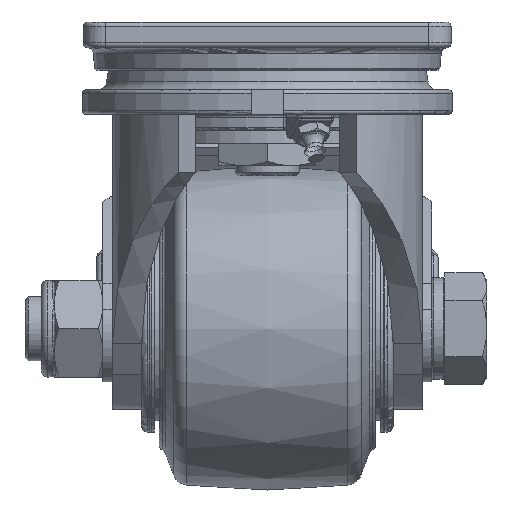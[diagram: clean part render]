
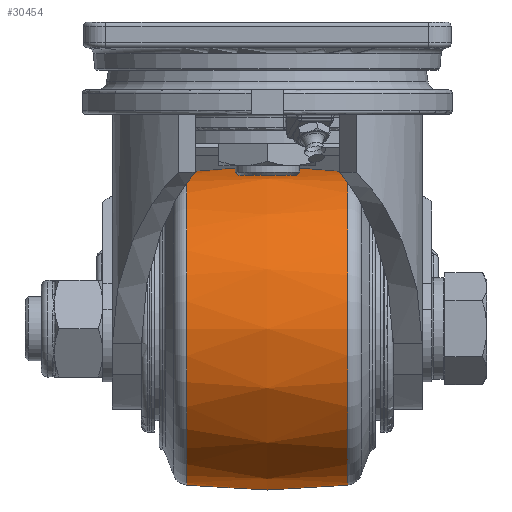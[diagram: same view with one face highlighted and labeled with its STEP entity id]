
A CAD part, left-side view. The second image highlights one B-rep face of the part: STEP entity #30454.
In plain terms, the highlighted free-form (B-spline) face has degree [2, 2] with [3, 9] control points.
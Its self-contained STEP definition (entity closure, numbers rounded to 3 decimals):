
#263=(
BOUNDED_SURFACE()
B_SPLINE_SURFACE(2,2,((#43612,#43613,#43614,#43615,#43616,#43617,#43618,
#43619,#43620),(#43621,#43622,#43623,#43624,#43625,#43626,#43627,#43628,
#43629),(#43630,#43631,#43632,#43633,#43634,#43635,#43636,#43637,#43638)),
 .UNSPECIFIED.,.F.,.T.,.F.)
B_SPLINE_SURFACE_WITH_KNOTS((3,3),(3,2,2,2,3),(-0.119,0.119),
(-3.142,-1.571,0.,1.571,3.142),
 .UNSPECIFIED.)
GEOMETRIC_REPRESENTATION_ITEM()
RATIONAL_B_SPLINE_SURFACE(((1.,0.707,1.,0.707,1.,
0.707,1.,0.707,1.),(0.993,0.702,
0.993,0.702,0.993,0.702,
0.993,0.702,0.993),(1.,0.707,
1.,0.707,1.,0.707,1.,0.707,1.)))
REPRESENTATION_ITEM('')
SURFACE()
);
#7718=FACE_OUTER_BOUND('',#9578,.T.);
#9578=EDGE_LOOP('',(#21044,#21045,#21046,#21047,#21048,#21049));
#11614=CIRCLE('',#32433,48.509);
#11615=CIRCLE('',#32434,48.509);
#11616=CIRCLE('',#32435,210.);
#11617=CIRCLE('',#32436,48.509);
#11618=CIRCLE('',#32437,48.509);
#13003=VERTEX_POINT('',#43607);
#13004=VERTEX_POINT('',#43609);
#13005=VERTEX_POINT('',#43639);
#13006=VERTEX_POINT('',#43641);
#16111=EDGE_CURVE('',#13003,#13004,#11614,.T.);
#16112=EDGE_CURVE('',#13004,#13003,#11615,.T.);
#16113=EDGE_CURVE('',#13003,#13005,#11616,.T.);
#16114=EDGE_CURVE('',#13005,#13006,#11617,.T.);
#16115=EDGE_CURVE('',#13006,#13005,#11618,.T.);
#21044=ORIENTED_EDGE('',*,*,#16112,.F.);
#21045=ORIENTED_EDGE('',*,*,#16111,.F.);
#21046=ORIENTED_EDGE('',*,*,#16113,.T.);
#21047=ORIENTED_EDGE('',*,*,#16114,.T.);
#21048=ORIENTED_EDGE('',*,*,#16115,.T.);
#21049=ORIENTED_EDGE('',*,*,#16113,.F.);
#30454=ADVANCED_FACE('',(#7718),#263,.F.);
#32433=AXIS2_PLACEMENT_3D('',#43610,#35482,#35483);
#32434=AXIS2_PLACEMENT_3D('',#43611,#35484,#35485);
#32435=AXIS2_PLACEMENT_3D('',#43640,#35486,#35487);
#32436=AXIS2_PLACEMENT_3D('',#43642,#35488,#35489);
#32437=AXIS2_PLACEMENT_3D('',#43643,#35490,#35491);
#35482=DIRECTION('center_axis',(0.,1.,0.));
#35483=DIRECTION('ref_axis',(-1.,0.,0.));
#35484=DIRECTION('center_axis',(0.,1.,0.));
#35485=DIRECTION('ref_axis',(-1.,0.,0.));
#35486=DIRECTION('center_axis',(1.,0.,0.));
#35487=DIRECTION('ref_axis',(0.,0.,
1.));
#35488=DIRECTION('center_axis',(0.,1.,0.));
#35489=DIRECTION('ref_axis',(-1.,0.,0.));
#35490=DIRECTION('center_axis',(0.,1.,0.));
#35491=DIRECTION('ref_axis',(-1.,0.,0.));
#43607=CARTESIAN_POINT('',(37.134,24.976,-16.491));
#43609=CARTESIAN_POINT('',(-11.375,24.976,-65.));
#43610=CARTESIAN_POINT('Origin',(37.134,24.976,-65.));
#43611=CARTESIAN_POINT('Origin',(37.134,24.976,-65.));
#43612=CARTESIAN_POINT('Ctrl Pts',(37.134,24.976,-16.491));
#43613=CARTESIAN_POINT('Ctrl Pts',(-11.375,24.976,-16.491));
#43614=CARTESIAN_POINT('Ctrl Pts',(-11.375,24.976,-65.));
#43615=CARTESIAN_POINT('Ctrl Pts',(-11.375,24.976,-113.509));
#43616=CARTESIAN_POINT('Ctrl Pts',(37.134,24.976,-113.509));
#43617=CARTESIAN_POINT('Ctrl Pts',(85.644,24.976,-113.509));
#43618=CARTESIAN_POINT('Ctrl Pts',(85.644,24.976,-65.));
#43619=CARTESIAN_POINT('Ctrl Pts',(85.644,24.976,-16.491));
#43620=CARTESIAN_POINT('Ctrl Pts',(37.134,24.976,-16.491));
#43621=CARTESIAN_POINT('Ctrl Pts',(37.134,0.,
-13.499));
#43622=CARTESIAN_POINT('Ctrl Pts',(-14.367,0.,
-13.499));
#43623=CARTESIAN_POINT('Ctrl Pts',(-14.367,0.,
-65.));
#43624=CARTESIAN_POINT('Ctrl Pts',(-14.367,0.,
-116.501));
#43625=CARTESIAN_POINT('Ctrl Pts',(37.134,0.,
-116.501));
#43626=CARTESIAN_POINT('Ctrl Pts',(88.635,0.,
-116.501));
#43627=CARTESIAN_POINT('Ctrl Pts',(88.635,0.,
-65.));
#43628=CARTESIAN_POINT('Ctrl Pts',(88.635,0.,
-13.499));
#43629=CARTESIAN_POINT('Ctrl Pts',(37.134,0.,
-13.499));
#43630=CARTESIAN_POINT('Ctrl Pts',(37.134,-24.976,-16.491));
#43631=CARTESIAN_POINT('Ctrl Pts',(-11.375,-24.976,
-16.491));
#43632=CARTESIAN_POINT('Ctrl Pts',(-11.375,-24.976,-65.));
#43633=CARTESIAN_POINT('Ctrl Pts',(-11.375,-24.976,
-113.509));
#43634=CARTESIAN_POINT('Ctrl Pts',(37.134,-24.976,-113.509));
#43635=CARTESIAN_POINT('Ctrl Pts',(85.644,-24.976,-113.509));
#43636=CARTESIAN_POINT('Ctrl Pts',(85.644,-24.976,-65.));
#43637=CARTESIAN_POINT('Ctrl Pts',(85.644,-24.976,-16.491));
#43638=CARTESIAN_POINT('Ctrl Pts',(37.134,-24.976,-16.491));
#43639=CARTESIAN_POINT('',(37.134,-24.976,-16.491));
#43640=CARTESIAN_POINT('Origin',(37.134,0.,
-225.));
#43641=CARTESIAN_POINT('',(-11.375,-24.976,-65.));
#43642=CARTESIAN_POINT('Origin',(37.134,-24.976,-65.));
#43643=CARTESIAN_POINT('Origin',(37.134,-24.976,-65.));
